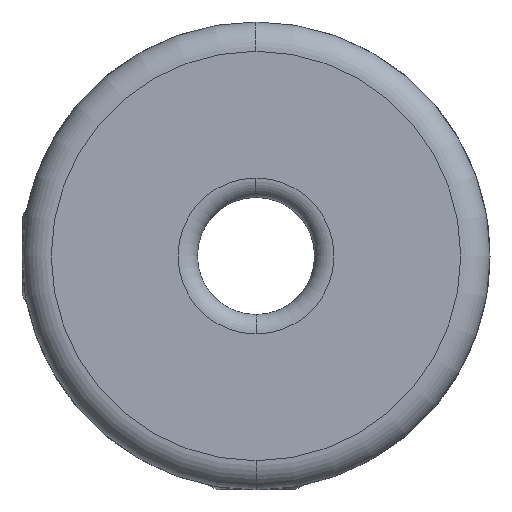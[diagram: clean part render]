
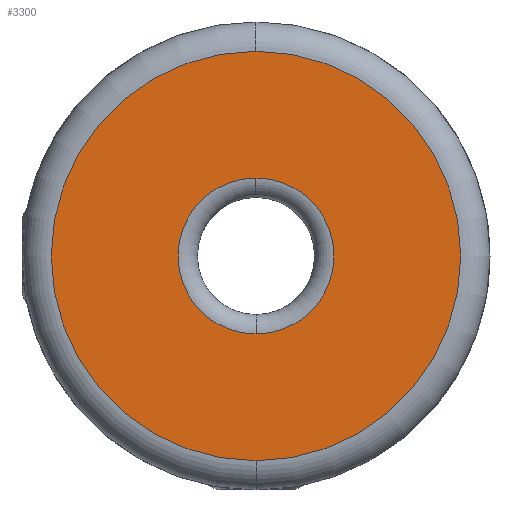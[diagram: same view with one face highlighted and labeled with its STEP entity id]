
A CAD part, left-side view. The second image highlights one B-rep face of the part: STEP entity #3300.
In plain terms, the highlighted planar face has unit normal (-1, 0, 0).
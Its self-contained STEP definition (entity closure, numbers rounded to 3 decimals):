
#64 = ORIENTED_EDGE ( 'NONE', *, *, #537, .T. ) ;
#96 = DIRECTION ( 'NONE',  ( 1., 0., 0. ) ) ;
#407 = VERTEX_POINT ( 'NONE', #3797 ) ;
#421 = VERTEX_POINT ( 'NONE', #680 ) ;
#449 = AXIS2_PLACEMENT_3D ( 'NONE', #1779, #2354, #605 ) ;
#526 = DIRECTION ( 'NONE',  ( -1., 0., 0. ) ) ;
#537 = EDGE_CURVE ( 'NONE', #407, #2035, #3444, .T. ) ;
#583 = EDGE_CURVE ( 'NONE', #863, #421, #3359, .T. ) ;
#605 = DIRECTION ( 'NONE',  ( 0., 0., -1. ) ) ;
#680 = CARTESIAN_POINT ( 'NONE',  ( -9.25, 0., -2. ) ) ;
#711 = CARTESIAN_POINT ( 'NONE',  ( -9.25, 0., 5.25 ) ) ;
#782 = DIRECTION ( 'NONE',  ( 1., 0., 0. ) ) ;
#837 = CARTESIAN_POINT ( 'NONE',  ( -9.25, 0., 0. ) ) ;
#863 = VERTEX_POINT ( 'NONE', #1271 ) ;
#892 = PLANE ( 'NONE',  #449 ) ;
#939 = FACE_OUTER_BOUND ( 'NONE', #1835, .T. ) ;
#967 = ORIENTED_EDGE ( 'NONE', *, *, #583, .T. ) ;
#1184 = CIRCLE ( 'NONE', #2475, 5.25 ) ;
#1271 = CARTESIAN_POINT ( 'NONE',  ( -9.25, 0., 2. ) ) ;
#1313 = CARTESIAN_POINT ( 'NONE',  ( -9.25, 0., 0. ) ) ;
#1376 = CIRCLE ( 'NONE', #2479, 2. ) ;
#1379 = EDGE_CURVE ( 'NONE', #421, #863, #1376, .T. ) ;
#1442 = EDGE_CURVE ( 'NONE', #2035, #407, #1184, .T. ) ;
#1607 = DIRECTION ( 'NONE',  ( 0., 0., -1. ) ) ;
#1778 = ORIENTED_EDGE ( 'NONE', *, *, #1379, .T. ) ;
#1779 = CARTESIAN_POINT ( 'NONE',  ( -9.25, 0., 0. ) ) ;
#1835 = EDGE_LOOP ( 'NONE', ( #64, #2806 ) ) ;
#1866 = CARTESIAN_POINT ( 'NONE',  ( -9.25, 0., 0. ) ) ;
#2035 = VERTEX_POINT ( 'NONE', #711 ) ;
#2159 = DIRECTION ( 'NONE',  ( 0., 0., -1. ) ) ;
#2284 = EDGE_LOOP ( 'NONE', ( #1778, #967 ) ) ;
#2354 = DIRECTION ( 'NONE',  ( 1., 0., 0. ) ) ;
#2475 = AXIS2_PLACEMENT_3D ( 'NONE', #1313, #3346, #1607 ) ;
#2479 = AXIS2_PLACEMENT_3D ( 'NONE', #1866, #96, #2159 ) ;
#2522 = DIRECTION ( 'NONE',  ( 0., 0., -1. ) ) ;
#2806 = ORIENTED_EDGE ( 'NONE', *, *, #1442, .T. ) ;
#2812 = CARTESIAN_POINT ( 'NONE',  ( -9.25, 0., 0. ) ) ;
#3255 = FACE_BOUND ( 'NONE', #2284, .T. ) ;
#3300 = ADVANCED_FACE ( 'NONE', ( #3255, #939 ), #892, .F. ) ;
#3346 = DIRECTION ( 'NONE',  ( -1., 0., 0. ) ) ;
#3359 = CIRCLE ( 'NONE', #3527, 2. ) ;
#3444 = CIRCLE ( 'NONE', #3575, 5.25 ) ;
#3462 = DIRECTION ( 'NONE',  ( 0., 0., -1. ) ) ;
#3527 = AXIS2_PLACEMENT_3D ( 'NONE', #2812, #782, #2522 ) ;
#3575 = AXIS2_PLACEMENT_3D ( 'NONE', #837, #526, #3462 ) ;
#3797 = CARTESIAN_POINT ( 'NONE',  ( -9.25, 0., -5.25 ) ) ;
